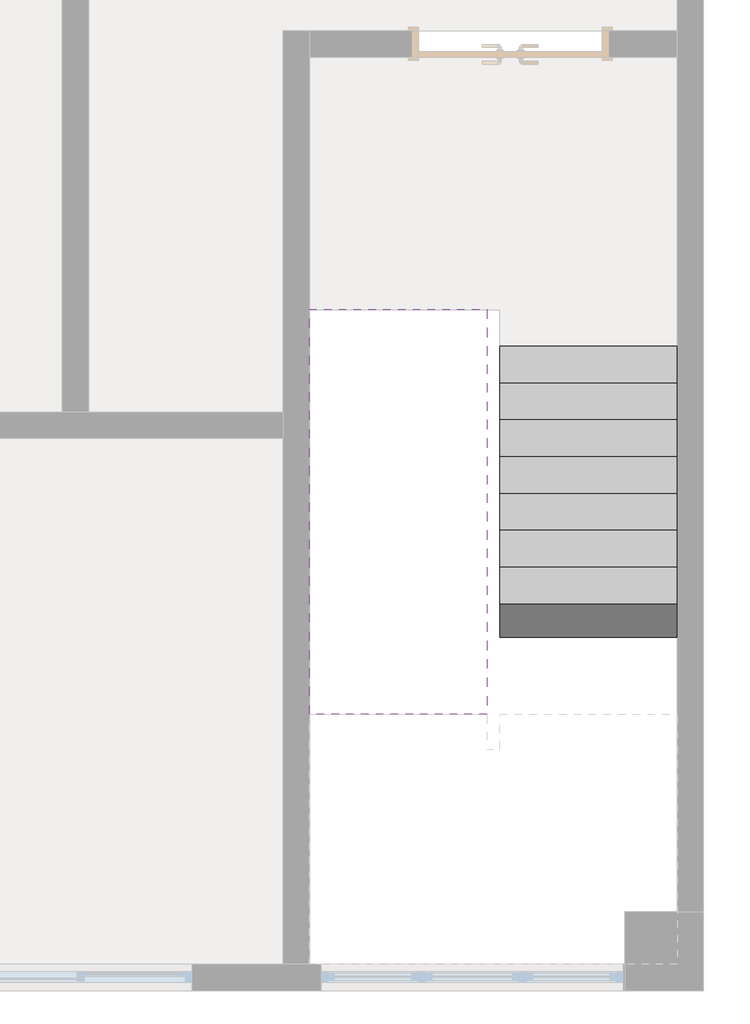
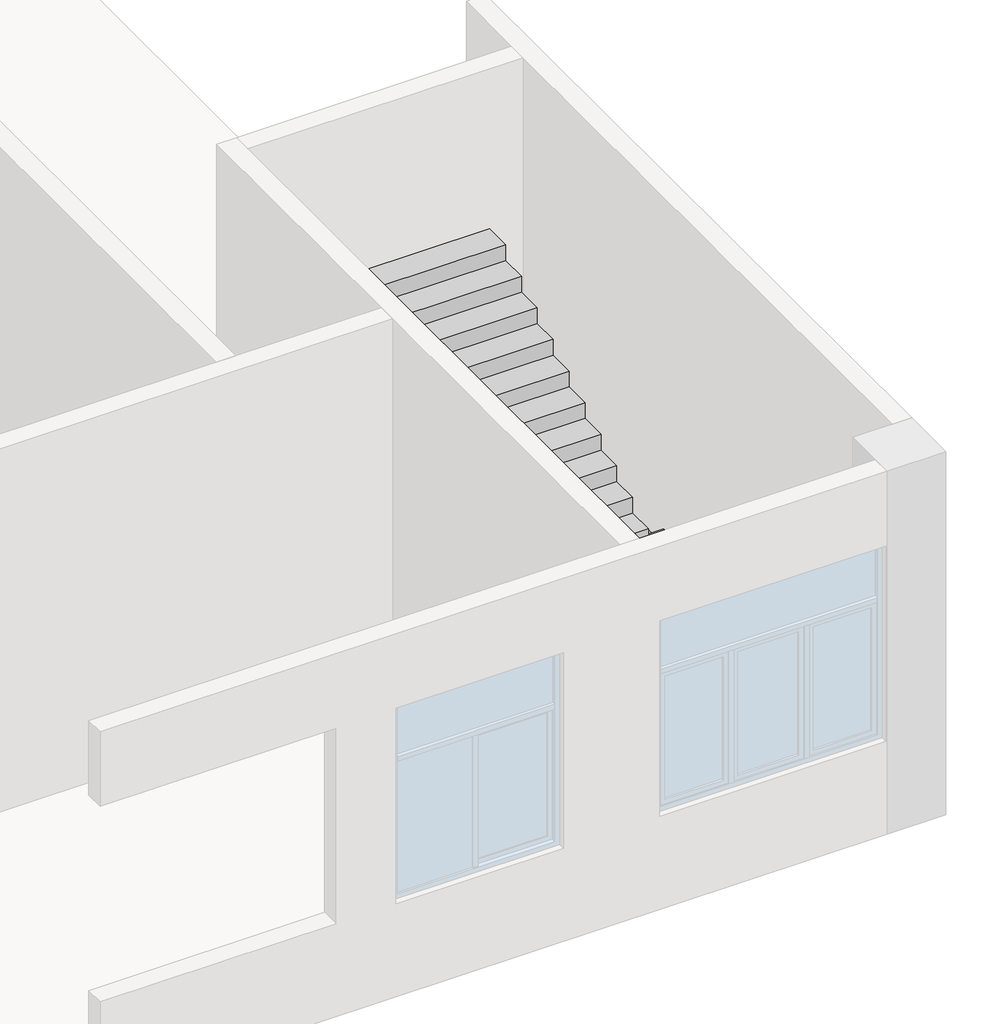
# One storey, part 3 of 3: 2 stair flights.
"""IFC4 building model written with IfcOpenShell, lengths in millimetres."""

from ifc_helpers import new_model, si_unit, origin, place, context, project, spatial, faceted_brep, element, save

model = new_model("IFC4")

# Units and contexts
model_context = context("Model", 3, world=origin())
ifc_project = project(units=[si_unit("LENGTHUNIT", "METRE", prefix="MILLI")], contexts=[model_context])

# Site, building, storey
site = spatial("IfcSite", under=ifc_project)
building = spatial("IfcBuilding", under=site)
storey = spatial("IfcBuildingStorey", under=building, Name="标高 5", Elevation=11000.0)

# Stair flights
placement = place(None, origin())
element("IfcStairFlight", 1, ObjectType="150", at=placement, inside=storey, context=model_context, shape_type="Brep", body=[
    faceted_brep([(13718.2324742, -5916.6725016, 11169.5652174), (13718.2324742, -5636.6725016, 11169.5652174), (12368.2324742, -5636.6725016, 11169.5652174), (12368.2324742, -5916.6725016, 11169.5652174), (13718.2324742, -5916.6725016, 11029.2760651), (13718.2324742, -5868.3294608, 11000.0), (13718.2324742, -5636.6725016, 11000.0), (12368.2324742, -5636.6725016, 11000.0), (12368.2324742, -5868.3294608, 11000.0), (12368.2324742, -5916.6725016, 11029.2760651), (13718.2324742, -6196.6725016, 11339.1304348), (13718.2324742, -5916.6725016, 11339.1304348), (12368.2324742, -5916.6725016, 11339.1304348), (12368.2324742, -6196.6725016, 11339.1304348), (13718.2324742, -6196.6725016, 11198.8412825), (12368.2324742, -6196.6725016, 11198.8412825), (13718.2324742, -6476.6725016, 11508.6956522), (13718.2324742, -6196.6725016, 11508.6956522), (12368.2324742, -6196.6725016, 11508.6956522), (12368.2324742, -6476.6725016, 11508.6956522), (13718.2324742, -6476.6725016, 11368.4064999), (12368.2324742, -6476.6725016, 11368.4064999), (13718.2324742, -6756.6725016, 11678.2608696), (13718.2324742, -6476.6725016, 11678.2608696), (12368.2324742, -6476.6725016, 11678.2608696), (12368.2324742, -6756.6725016, 11678.2608696), (13718.2324742, -6756.6725016, 11537.9717173), (12368.2324742, -6756.6725016, 11537.9717173), (13718.2324742, -7036.6725016, 11847.826087), (13718.2324742, -6756.6725016, 11847.826087), (12368.2324742, -6756.6725016, 11847.826087), (12368.2324742, -7036.6725016, 11847.826087), (13718.2324742, -7036.6725016, 11707.5369346), (12368.2324742, -7036.6725016, 11707.5369346), (13718.2324742, -7316.6725016, 12017.3913043), (13718.2324742, -7036.6725016, 12017.3913043), (12368.2324742, -7036.6725016, 12017.3913043), (12368.2324742, -7316.6725016, 12017.3913043), (13718.2324742, -7316.6725016, 11877.102152), (12368.2324742, -7316.6725016, 11877.102152), (13718.2324742, -7596.6725016, 12186.9565217), (13718.2324742, -7316.6725016, 12186.9565217), (12368.2324742, -7316.6725016, 12186.9565217), (12368.2324742, -7596.6725016, 12186.9565217), (13718.2324742, -7596.6725016, 12046.6673694), (12368.2324742, -7596.6725016, 12046.6673694), (13718.2324742, -7876.6725016, 12356.5217391), (13718.2324742, -7596.6725016, 12356.5217391), (12368.2324742, -7596.6725016, 12356.5217391), (12368.2324742, -7876.6725016, 12356.5217391), (13718.2324742, -7876.6725016, 12216.2325868), (12368.2324742, -7876.6725016, 12216.2325868), (13718.2324742, -8156.6725016, 12526.0869565), (13718.2324742, -7876.6725016, 12526.0869565), (12368.2324742, -7876.6725016, 12526.0869565), (12368.2324742, -8156.6725016, 12526.0869565), (13718.2324742, -8156.6725016, 12385.7978042), (12368.2324742, -8156.6725016, 12385.7978042), (13718.2324742, -8436.6725016, 12695.6521739), (13718.2324742, -8156.6725016, 12695.6521739), (12368.2324742, -8156.6725016, 12695.6521739), (12368.2324742, -8436.6725016, 12695.6521739), (13718.2324742, -8436.6725016, 12555.3630216), (12368.2324742, -8436.6725016, 12555.3630216)], [[[0, 1, 2, 3]], [[1, 0, 4, 5, 6]], [[2, 1, 6, 7]], [[3, 2, 7, 8, 9]], [[10, 11, 12, 13]], [[11, 10, 14, 4, 0]], [[0, 3, 12, 11]], [[13, 12, 3, 9, 15]], [[16, 17, 18, 19]], [[17, 16, 20, 14, 10]], [[10, 13, 18, 17]], [[19, 18, 13, 15, 21]], [[22, 23, 24, 25]], [[23, 22, 26, 20, 16]], [[16, 19, 24, 23]], [[25, 24, 19, 21, 27]], [[28, 29, 30, 31]], [[29, 28, 32, 26, 22]], [[22, 25, 30, 29]], [[31, 30, 25, 27, 33]], [[34, 35, 36, 37]], [[35, 34, 38, 32, 28]], [[28, 31, 36, 35]], [[37, 36, 31, 33, 39]], [[40, 41, 42, 43]], [[41, 40, 44, 38, 34]], [[34, 37, 42, 41]], [[43, 42, 37, 39, 45]], [[46, 47, 48, 49]], [[47, 46, 50, 44, 40]], [[40, 43, 48, 47]], [[49, 48, 43, 45, 51]], [[52, 53, 54, 55]], [[53, 52, 56, 50, 46]], [[46, 49, 54, 53]], [[55, 54, 49, 51, 57]], [[58, 59, 60, 61]], [[59, 58, 62, 56, 52]], [[52, 55, 60, 59]], [[61, 60, 55, 57, 63]], [[58, 61, 63, 62]], [[7, 6, 5, 8]], [[8, 5, 4, 14, 20, 26, 32, 38, 44, 50, 56, 62, 63, 57, 51, 45, 39, 33, 27, 21, 15, 9]]]),
])
element("IfcStairFlight", 2, ObjectType="150", at=placement, inside=storey, context=model_context, shape_type="Brep", body=[
    faceted_brep([(10918.2324742, -8156.6725016, 13034.7826087), (10918.2324742, -8436.6725016, 13034.7826087), (12268.2324742, -8436.6725016, 13034.7826087), (12268.2324742, -8156.6725016, 13034.7826087), (10918.2324742, -8156.6725016, 12894.4934564), (10918.2324742, -8436.6725016, 12724.928239), (10918.2324742, -8436.6725016, 12865.2173913), (12268.2324742, -8436.6725016, 12724.928239), (12268.2324742, -8436.6725016, 12865.2173913), (12268.2324742, -8156.6725016, 12894.4934564), (10918.2324742, -7876.6725016, 13204.3478261), (10918.2324742, -8156.6725016, 13204.3478261), (12268.2324742, -8156.6725016, 13204.3478261), (12268.2324742, -7876.6725016, 13204.3478261), (10918.2324742, -7876.6725016, 13064.0586738), (12268.2324742, -7876.6725016, 13064.0586738), (10918.2324742, -7596.6725016, 13373.9130435), (10918.2324742, -7876.6725016, 13373.9130435), (12268.2324742, -7876.6725016, 13373.9130435), (12268.2324742, -7596.6725016, 13373.9130435), (10918.2324742, -7596.6725016, 13233.6238912), (12268.2324742, -7596.6725016, 13233.6238912), (10918.2324742, -7316.6725016, 13543.4782609), (10918.2324742, -7596.6725016, 13543.4782609), (12268.2324742, -7596.6725016, 13543.4782609), (12268.2324742, -7316.6725016, 13543.4782609), (10918.2324742, -7316.6725016, 13403.1891086), (12268.2324742, -7316.6725016, 13403.1891086), (10918.2324742, -7036.6725016, 13713.0434783), (10918.2324742, -7316.6725016, 13713.0434783), (12268.2324742, -7316.6725016, 13713.0434783), (12268.2324742, -7036.6725016, 13713.0434783), (10918.2324742, -7036.6725016, 13572.754326), (12268.2324742, -7036.6725016, 13572.754326), (10918.2324742, -6756.6725016, 13882.6086957), (10918.2324742, -7036.6725016, 13882.6086957), (12268.2324742, -7036.6725016, 13882.6086957), (12268.2324742, -6756.6725016, 13882.6086957), (10918.2324742, -6756.6725016, 13742.3195433), (12268.2324742, -6756.6725016, 13742.3195433), (10918.2324742, -6476.6725016, 14052.173913), (10918.2324742, -6756.6725016, 14052.173913), (12268.2324742, -6756.6725016, 14052.173913), (12268.2324742, -6476.6725016, 14052.173913), (10918.2324742, -6476.6725016, 13911.8847607), (12268.2324742, -6476.6725016, 13911.8847607), (10918.2324742, -6196.6725016, 14221.7391304), (10918.2324742, -6476.6725016, 14221.7391304), (12268.2324742, -6476.6725016, 14221.7391304), (12268.2324742, -6196.6725016, 14221.7391304), (10918.2324742, -6196.6725016, 14081.4499781), (12268.2324742, -6196.6725016, 14081.4499781), (10918.2324742, -5916.6725016, 14391.3043478), (10918.2324742, -6196.6725016, 14391.3043478), (12268.2324742, -6196.6725016, 14391.3043478), (12268.2324742, -5916.6725016, 14391.3043478), (10918.2324742, -5916.6725016, 14251.0151955), (12268.2324742, -5916.6725016, 14251.0151955), (10918.2324742, -5636.6725016, 14560.8695652), (10918.2324742, -5916.6725016, 14560.8695652), (12268.2324742, -5916.6725016, 14560.8695652), (12268.2324742, -5636.6725016, 14560.8695652), (10918.2324742, -5636.6725016, 14420.5804129), (12268.2324742, -5636.6725016, 14420.5804129), (10918.2324742, -5356.6725016, 14590.1456303), (12268.2324742, -5356.6725016, 14590.1456303), (10918.2324742, -5356.6725016, 14730.4347826), (10918.2324742, -5636.6725016, 14730.4347826), (12268.2324742, -5636.6725016, 14730.4347826), (12268.2324742, -5356.6725016, 14730.4347826)], [[[0, 1, 2, 3]], [[1, 0, 4, 5, 6]], [[2, 1, 6, 5, 7, 8]], [[3, 2, 8, 7, 9]], [[10, 11, 12, 13]], [[11, 10, 14, 4, 0]], [[12, 11, 0, 3]], [[13, 12, 3, 9, 15]], [[16, 17, 18, 19]], [[17, 16, 20, 14, 10]], [[18, 17, 10, 13]], [[19, 18, 13, 15, 21]], [[22, 23, 24, 25]], [[23, 22, 26, 20, 16]], [[24, 23, 16, 19]], [[25, 24, 19, 21, 27]], [[28, 29, 30, 31]], [[29, 28, 32, 26, 22]], [[30, 29, 22, 25]], [[31, 30, 25, 27, 33]], [[34, 35, 36, 37]], [[35, 34, 38, 32, 28]], [[36, 35, 28, 31]], [[37, 36, 31, 33, 39]], [[40, 41, 42, 43]], [[41, 40, 44, 38, 34]], [[42, 41, 34, 37]], [[43, 42, 37, 39, 45]], [[46, 47, 48, 49]], [[47, 46, 50, 44, 40]], [[48, 47, 40, 43]], [[49, 48, 43, 45, 51]], [[52, 53, 54, 55]], [[53, 52, 56, 50, 46]], [[54, 53, 46, 49]], [[55, 54, 49, 51, 57]], [[58, 59, 60, 61]], [[59, 58, 62, 56, 52]], [[60, 59, 52, 55]], [[61, 60, 55, 57, 63]], [[5, 4, 14, 20, 26, 32, 38, 44, 50, 56, 62, 64, 65, 63, 57, 51, 45, 39, 33, 27, 21, 15, 9, 7]], [[66, 67, 68, 69]], [[67, 66, 64, 62, 58]], [[68, 67, 58, 61]], [[69, 68, 61, 63, 65]], [[66, 69, 65, 64]]]),
])

save(model, "model.ifc")
